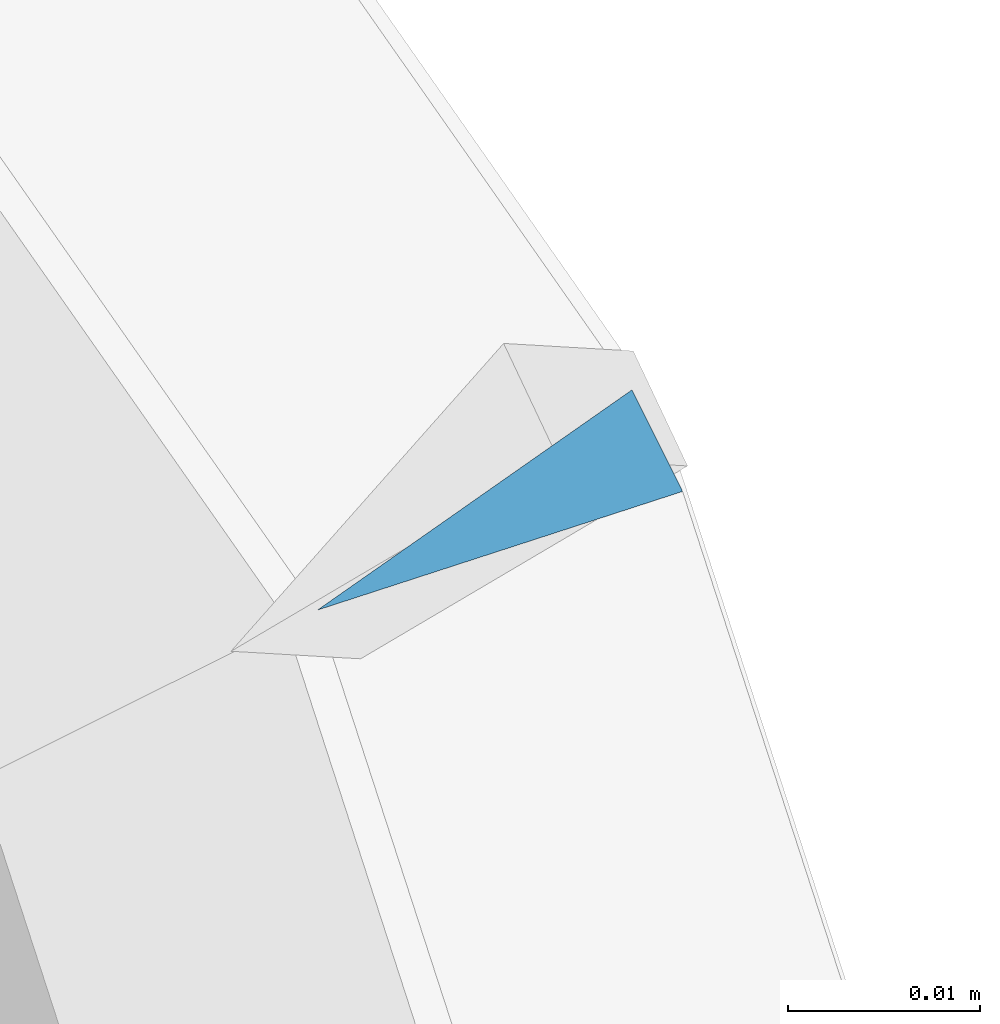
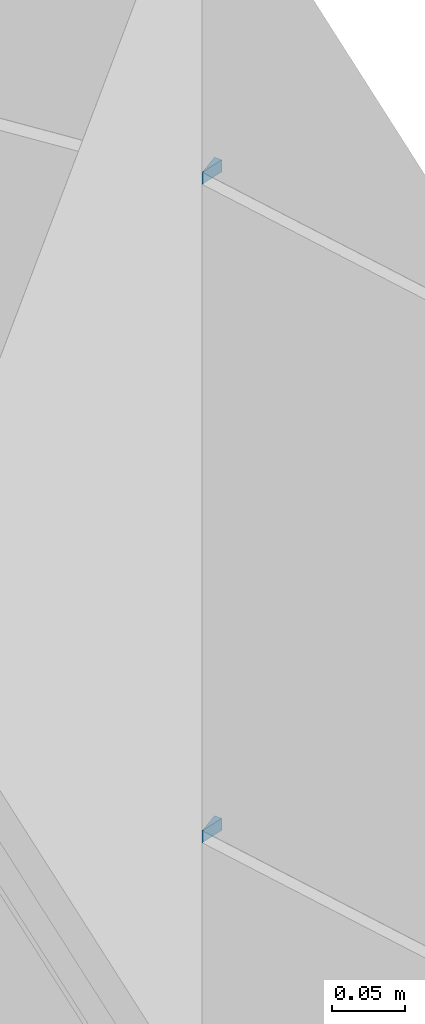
# One storey, part 384 of 583: 2 slabs.
"""IFC2X3 building model written with IfcOpenShell, lengths in metres."""

import ifcopenshell
import ifcopenshell.guid

model = None  # the IFC model being written
_history = None  # IfcOwnerHistory: only IFC2X3 demands one
_inside = {}  # id of a spatial element -> (the spatial element, [elements in it])
_under = {}  # id of a project, library or spatial element -> (it, [spatial elements below it])
_declared = {}  # id of a project -> (the project, [libraries it declares])
_typed = {}  # id of a type object -> (the type object, [elements of that type])
_made_of = {}  # id of a material, layer set ... -> (it, [elements and type objects made of it])


def new_model(schema):
    """Start an empty IFC model of exactly this schema.

    Asked for "IFC4X3", IfcOpenShell would pick the latest addendum, in which some entities
    have other attributes; the version numbers below select the first issue.
    IFC2X3 requires an IfcOwnerHistory on every rooted entity: one is made here for all.
    """
    global model, _history
    if schema == "IFC4X3":
        model = ifcopenshell.file(schema_version=(4, 3, 0, 0))
    else:
        model = ifcopenshell.file(schema=schema)
    _inside.clear()
    _under.clear()
    _declared.clear()
    _typed.clear()
    _made_of.clear()
    _history = None
    if model.schema == "IFC2X3":
        org = make("IfcOrganization", Name="unknown")
        user = make(
            "IfcPersonAndOrganization",
            ThePerson=make("IfcPerson", FamilyName="unknown"),
            TheOrganization=org,
        )
        app = make(
            "IfcApplication",
            ApplicationDeveloper=org,
            Version="unknown",
            ApplicationFullName="unknown",
            ApplicationIdentifier="unknown",
        )
        _history = make(
            "IfcOwnerHistory",
            OwningUser=user,
            OwningApplication=app,
            ChangeAction="ADDED",
            CreationDate=0,
        )
    return model


def make(cls, **values):
    """One entity of the class cls with the attributes given. An attribute that is None is left unset."""
    return model.create_entity(
        cls, **{name: value for name, value in values.items() if value is not None}
    )


def entity(cls, *values):
    """Any entity or typed value of the class cls, its attributes in the order of the schema. None: left unset."""
    e = model.create_entity(cls)
    for i, value in enumerate(values):
        if value is not None:
            e[i] = value
    return e


def rooted(cls, **values):
    """An entity with a GlobalId (a new one), such as an element, a storey or a relation."""
    return make(cls, GlobalId=ifcopenshell.guid.new(), OwnerHistory=_history, **values)


def si_unit(unit_type, name, prefix=None):
    """IfcSIUnit, for example si_unit("LENGTHUNIT", "METRE", prefix="MILLI")."""
    return make("IfcSIUnit", UnitType=unit_type, Prefix=prefix, Name=name)


def converted_unit(unit_type, name, factor, base, dimensions=None, offset=None):
    """IfcConversionBasedUnit, such as the inch: factor (a typed value) times the base unit."""
    return make(
        "IfcConversionBasedUnit"
        if offset is None
        else "IfcConversionBasedUnitWithOffset",
        ConversionOffset=offset,
        Dimensions=None
        if dimensions is None
        else entity("IfcDimensionalExponents", *dimensions),
        UnitType=unit_type,
        Name=name,
        ConversionFactor=make(
            "IfcMeasureWithUnit", ValueComponent=factor, UnitComponent=base
        ),
    )


def derived_unit(unit_type, elements):
    """IfcDerivedUnit: a product of units, each with its exponent."""
    return make(
        "IfcDerivedUnit",
        Elements=[
            make("IfcDerivedUnitElement", Unit=unit, Exponent=power)
            for unit, power in elements
        ],
        UnitType=unit_type,
    )


def money_unit(currency):
    """IfcMonetaryUnit."""
    return make("IfcMonetaryUnit", Currency=currency)


def assignment(units):
    """IfcUnitAssignment: the units of a project."""
    return None if units is None else make("IfcUnitAssignment", Units=units)


def point(xyz):
    """IfcCartesianPoint."""
    return None if xyz is None else make("IfcCartesianPoint", Coordinates=xyz)


def direction(xyz):
    """IfcDirection."""
    return None if xyz is None else make("IfcDirection", DirectionRatios=xyz)


def frame(location, z_axis=None, x_axis=None):
    """IfcAxis2Placement3D, a coordinate frame: its origin and axes. An axis left out is left unset."""
    return make(
        "IfcAxis2Placement3D",
        Location=point(location),
        Axis=direction(z_axis),
        RefDirection=direction(x_axis),
    )


def origin_with_axes():
    """The frame at (0, 0, 0) with the z axis (0, 0, 1) and the x axis (1, 0, 0) written out."""
    return frame((0.0, 0.0, 0.0), z_axis=(0.0, 0.0, 1.0), x_axis=(1.0, 0.0, 0.0))


def place(relative_to, where):
    """IfcLocalPlacement: puts the frame where relative to a parent placement (None: the world)."""
    return make(
        "IfcLocalPlacement", PlacementRelTo=relative_to, RelativePlacement=where
    )


def context(
    kind, dimensions, precision=None, world=None, true_north=None, identifier=None
):
    """IfcGeometricRepresentationContext, for example the 3D "Model" context."""
    return make(
        "IfcGeometricRepresentationContext",
        ContextIdentifier=identifier,
        ContextType=kind,
        CoordinateSpaceDimension=dimensions,
        Precision=precision,
        WorldCoordinateSystem=world,
        TrueNorth=true_north,
    )


def subcontext(parent, identifier, kind, view, scale=None):
    """IfcGeometricRepresentationSubContext, for example "Body" below "Model"."""
    return make(
        "IfcGeometricRepresentationSubContext",
        ContextIdentifier=identifier,
        ContextType=kind,
        ParentContext=parent,
        TargetScale=scale,
        TargetView=view,
    )


def project(units=None, contexts=None):
    """IfcProject with its units and contexts."""
    return rooted(
        "IfcProject",
        Name="project",
        RepresentationContexts=contexts,
        UnitsInContext=assignment(units),
    )


def spatial(cls, under=None, at=None, **own):
    """A site, building, storey or space (cls), placed at a placement, below another one or the project."""
    s = rooted(cls, ObjectPlacement=at, **own)
    if under is not None:
        _under.setdefault(under.id(), (under, []))[1].append(s)
    return s


def faces_of(points, faces, orient=None, outer=None):
    """IfcFace entities. A face is a list of loops; a loop is a list of indices into points, from 0.

    orient and outer hold one flag for each loop. By default every Orientation is true, the
    first loop of a face is its IfcFaceOuterBound and the others are IfcFaceBound.
    """
    made = []
    for i, loops in enumerate(faces):
        bounds = []
        for j, loop in enumerate(loops):
            is_outer = j == 0 if outer is None else outer[i][j]
            bounds.append(
                make(
                    "IfcFaceOuterBound" if is_outer else "IfcFaceBound",
                    Bound=make("IfcPolyLoop", Polygon=[points[k] for k in loop]),
                    Orientation=True if orient is None else orient[i][j],
                )
            )
        made.append(make("IfcFace", Bounds=bounds))
    return made


def faceted_brep(points, faces, orient=None, outer=None, voids=None):
    """IfcFacetedBrep: a solid bounded by flat faces; with voids (closed shells), ...WithVoids."""
    shared = [point(p) for p in points]
    hull = make("IfcClosedShell", CfsFaces=faces_of(shared, faces, orient, outer))
    if voids is None:
        return make("IfcFacetedBrep", Outer=hull)
    return make(
        "IfcFacetedBrepWithVoids",
        Outer=hull,
        Voids=[
            make(cls, CfsFaces=faces_of(shared, fs, o, b)) for cls, fs, o, b in voids
        ],
    )


def shape(context_of_items, identifier, shape_type, items):
    """IfcShapeRepresentation: the items that make up one representation, for example the "Body"."""
    return make(
        "IfcShapeRepresentation",
        ContextOfItems=context_of_items,
        RepresentationIdentifier=identifier,
        RepresentationType=shape_type,
        Items=items,
    )


def material(Name=None, Category=None):
    """IfcMaterial."""
    return make("IfcMaterial", Name=Name, Category=Category)


def made_of(thing, what):
    """Note that an element or type object is made of a material, layer set ...; save() writes the relation."""
    if what is not None:
        _made_of.setdefault(what.id(), (what, []))[1].append(thing)
    return thing


def type_object(cls, material=None, **own):
    """A type object (cls), such as IfcWallType, which elements share."""
    return made_of(rooted(cls, **own), material)


def element(
    cls,
    number,
    at=None,
    inside=None,
    cuts=None,
    type_object=None,
    material=None,
    context=None,
    identifier="Body",
    shape_type=None,
    held_by="IfcProductDefinitionShape",
    body=None,
    shapes=None,
    **own,
):
    """One element of the class cls, such as IfcWall. Its Tag is "e" and its number.

    at: its placement. inside: the storey or other place that contains it. cuts: it is an
    opening in that element (IfcRelVoidsElement). A single representation is given by context,
    identifier, shape_type and body (its items); several are given by shapes. held_by: the class
    of the entity that holds the representations. save() writes the other relations.
    """
    e = rooted(cls, Tag="e%d" % number, ObjectPlacement=at, **own)
    if body is not None:
        shapes = [shape(context, identifier, shape_type, body)]
    if shapes is not None:
        e.Representation = make(held_by, Representations=shapes)
    if inside is not None:
        _inside.setdefault(inside.id(), (inside, []))[1].append(e)
    if cuts is not None:
        rooted(
            "IfcRelVoidsElement", RelatingBuildingElement=cuts, RelatedOpeningElement=e
        )
    if type_object is not None:
        _typed.setdefault(type_object.id(), (type_object, []))[1].append(e)
    return made_of(e, material)


def aggregate(whole, parts):
    """IfcRelAggregates: a whole, such as a stair, and the parts it consists of."""
    return rooted("IfcRelAggregates", RelatingObject=whole, RelatedObjects=parts)


def save(model, path):
    """Write the relations noted so far, then the file.

    IfcRelAggregates (storeys below a building ...), IfcRelContainedInSpatialStructure (elements
    in a storey), IfcRelDefinesByType, IfcRelAssociatesMaterial and IfcRelDeclares: one each for
    every whole, place, type object, material and project.
    """
    for whole, parts in _under.values():
        aggregate(whole, parts)
    for where, things in _inside.values():
        rooted(
            "IfcRelContainedInSpatialStructure",
            RelatedElements=things,
            RelatingStructure=where,
        )
    for kind, things in _typed.values():
        rooted("IfcRelDefinesByType", RelatedObjects=things, RelatingType=kind)
    for what, things in _made_of.values():
        rooted("IfcRelAssociatesMaterial", RelatedObjects=things, RelatingMaterial=what)
    for by, libraries in _declared.values():
        rooted("IfcRelDeclares", RelatingContext=by, RelatedDefinitions=libraries)
    model.write(path)


model = new_model("IFC2X3")

# Units and contexts
model_context = context("Model", 3, precision=1e-05, world=origin_with_axes(), true_north=direction((0.0, 1.0)))
body_context = subcontext(model_context, "Body", "Model", "MODEL_VIEW", scale=1.0)
ifc_project = project(units=[si_unit("LENGTHUNIT", "METRE"), si_unit("AREAUNIT", "SQUARE_METRE"), si_unit("VOLUMEUNIT", "CUBIC_METRE"), si_unit("ABSORBEDDOSEUNIT", "GRAY"), si_unit("AMOUNTOFSUBSTANCEUNIT", "MOLE"), si_unit("DOSEEQUIVALENTUNIT", "SIEVERT"), si_unit("ELECTRICCAPACITANCEUNIT", "FARAD"), si_unit("ELECTRICCHARGEUNIT", "COULOMB"), si_unit("ELECTRICCONDUCTANCEUNIT", "SIEMENS"), si_unit("ELECTRICCURRENTUNIT", "AMPERE"), si_unit("ELECTRICRESISTANCEUNIT", "OHM"), si_unit("ELECTRICVOLTAGEUNIT", "VOLT"), si_unit("ENERGYUNIT", "JOULE"), si_unit("FORCEUNIT", "NEWTON"), si_unit("FREQUENCYUNIT", "HERTZ"), si_unit("ILLUMINANCEUNIT", "LUX"), si_unit("INDUCTANCEUNIT", "HENRY"), si_unit("LUMINOUSFLUXUNIT", "LUMEN"), si_unit("LUMINOUSINTENSITYUNIT", "CANDELA"), si_unit("MAGNETICFLUXDENSITYUNIT", "TESLA"), si_unit("MAGNETICFLUXUNIT", "WEBER"), si_unit("MASSUNIT", "GRAM"), converted_unit("PLANEANGLEUNIT", "degree", entity("IfcReal", 0.0174532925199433), si_unit("PLANEANGLEUNIT", "RADIAN"), dimensions=[0, 0, 0, 0, 0, 0, 0]), si_unit("POWERUNIT", "WATT"), si_unit("PRESSUREUNIT", "PASCAL"), si_unit("RADIOACTIVITYUNIT", "BECQUEREL"), si_unit("SOLIDANGLEUNIT", "STERADIAN"), si_unit("THERMODYNAMICTEMPERATUREUNIT", "KELVIN"), si_unit("TIMEUNIT", "SECOND"), derived_unit("ACCELERATIONUNIT", [(si_unit("LENGTHUNIT", "METRE"), 1), (si_unit("TIMEUNIT", "SECOND"), -2)]), derived_unit("ANGULARVELOCITYUNIT", [(converted_unit("PLANEANGLEUNIT", "degree", entity("IfcReal", 0.0174532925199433), si_unit("PLANEANGLEUNIT", "RADIAN"), dimensions=[0, 0, 0, 0, 0, 0, 0]), 1), (si_unit("TIMEUNIT", "SECOND"), -1)]), derived_unit("CURVATUREUNIT", [(converted_unit("PLANEANGLEUNIT", "degree", entity("IfcReal", 0.0174532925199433), si_unit("PLANEANGLEUNIT", "RADIAN"), dimensions=[0, 0, 0, 0, 0, 0, 0]), 1), (si_unit("LENGTHUNIT", "METRE"), -1)]), derived_unit("DYNAMICVISCOSITYUNIT", [(si_unit("PRESSUREUNIT", "PASCAL"), 1), (si_unit("TIMEUNIT", "SECOND"), 1)]), derived_unit("HEATFLUXDENSITYUNIT", [(si_unit("POWERUNIT", "WATT"), 1), (si_unit("LENGTHUNIT", "METRE"), -2)]), derived_unit("HEATINGVALUEUNIT", [(si_unit("ENERGYUNIT", "JOULE"), 1), (si_unit("MASSUNIT", "GRAM"), -1)]), derived_unit("INTEGERCOUNTRATEUNIT", [(si_unit("TIMEUNIT", "SECOND"), -1)]), derived_unit("IONCONCENTRATIONUNIT", [(si_unit("MASSUNIT", "GRAM"), 1), (si_unit("VOLUMEUNIT", "CUBIC_METRE"), -1)]), derived_unit("ISOTHERMALMOISTURECAPACITYUNIT", [(si_unit("VOLUMEUNIT", "CUBIC_METRE"), 1), (si_unit("MASSUNIT", "GRAM"), -1)]), derived_unit("KINEMATICVISCOSITYUNIT", [(si_unit("AREAUNIT", "SQUARE_METRE"), 1), (si_unit("TIMEUNIT", "SECOND"), -1)]), derived_unit("LINEARFORCEUNIT", [(si_unit("FORCEUNIT", "NEWTON"), 1), (si_unit("LENGTHUNIT", "METRE"), -1)]), derived_unit("LINEARMOMENTUNIT", [(si_unit("FORCEUNIT", "NEWTON"), 1), (si_unit("LENGTHUNIT", "METRE"), -1)]), derived_unit("LINEARSTIFFNESSUNIT", [(si_unit("FORCEUNIT", "NEWTON"), 1), (si_unit("LENGTHUNIT", "METRE"), -1)]), derived_unit("LINEARVELOCITYUNIT", [(si_unit("LENGTHUNIT", "METRE"), 1), (si_unit("TIMEUNIT", "SECOND"), -1)]), derived_unit("LUMINOUSINTENSITYDISTRIBUTIONUNIT", [(si_unit("LUMINOUSINTENSITYUNIT", "CANDELA"), 1), (si_unit("LUMINOUSFLUXUNIT", "LUMEN"), -1)]), derived_unit("MASSDENSITYUNIT", [(si_unit("MASSUNIT", "GRAM"), 1), (si_unit("VOLUMEUNIT", "CUBIC_METRE"), -1)]), derived_unit("MASSFLOWRATEUNIT", [(si_unit("MASSUNIT", "GRAM"), 1), (si_unit("TIMEUNIT", "SECOND"), -1)]), derived_unit("MASSPERLENGTHUNIT", [(si_unit("MASSUNIT", "GRAM"), 1), (si_unit("LENGTHUNIT", "METRE"), -1)]), derived_unit("MODULUSOFELASTICITYUNIT", [(si_unit("FORCEUNIT", "NEWTON"), 1), (si_unit("AREAUNIT", "SQUARE_METRE"), -1)]), derived_unit("MODULUSOFLINEARSUBGRADEREACTIONUNIT", [(si_unit("FORCEUNIT", "NEWTON"), 1), (si_unit("LENGTHUNIT", "METRE"), -2)]), derived_unit("MODULUSOFROTATIONALSUBGRADEREACTIONUNIT", [(si_unit("FORCEUNIT", "NEWTON"), 1), (si_unit("LENGTHUNIT", "METRE"), 1)]), derived_unit("MODULUSOFSUBGRADEREACTIONUNIT", [(si_unit("FORCEUNIT", "NEWTON"), 1), (si_unit("VOLUMEUNIT", "CUBIC_METRE"), -1)]), derived_unit("MOISTUREDIFFUSIVITYUNIT", [(si_unit("VOLUMEUNIT", "CUBIC_METRE"), 1), (si_unit("TIMEUNIT", "SECOND"), -1)]), derived_unit("MOLECULARWEIGHTUNIT", [(si_unit("MASSUNIT", "GRAM"), 1), (si_unit("AMOUNTOFSUBSTANCEUNIT", "MOLE"), -1)]), derived_unit("PLANARFORCEUNIT", [(si_unit("FORCEUNIT", "NEWTON"), 1), (si_unit("LENGTHUNIT", "METRE"), -2)]), derived_unit("ROTATIONALFREQUENCYUNIT", [(si_unit("TIMEUNIT", "SECOND"), -1)]), derived_unit("ROTATIONALMASSUNIT", [(si_unit("MASSUNIT", "GRAM"), 1), (si_unit("LENGTHUNIT", "METRE"), 2)]), derived_unit("ROTATIONALSTIFFNESSUNIT", [(si_unit("FORCEUNIT", "NEWTON"), 1), (si_unit("LENGTHUNIT", "METRE"), 1), (converted_unit("PLANEANGLEUNIT", "degree", entity("IfcReal", 0.0174532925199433), si_unit("PLANEANGLEUNIT", "RADIAN"), dimensions=[0, 0, 0, 0, 0, 0, 0]), -1)]), derived_unit("SECTIONAREAINTEGRALUNIT", [(si_unit("LENGTHUNIT", "METRE"), 5)]), derived_unit("SECTIONMODULUSUNIT", [(si_unit("LENGTHUNIT", "METRE"), 3)]), derived_unit("SHEARMODULUSUNIT", [(si_unit("FORCEUNIT", "NEWTON"), 1), (si_unit("AREAUNIT", "SQUARE_METRE"), -1)]), derived_unit("SOUNDPOWERUNIT", [(si_unit("ENERGYUNIT", "JOULE"), 1), (si_unit("TIMEUNIT", "SECOND"), -1)]), derived_unit("SPECIFICHEATCAPACITYUNIT", [(si_unit("FORCEUNIT", "NEWTON"), 1), (si_unit("MASSUNIT", "GRAM"), -1), (si_unit("THERMODYNAMICTEMPERATUREUNIT", "KELVIN"), -1)]), derived_unit("TEMPERATUREGRADIENTUNIT", [(si_unit("THERMODYNAMICTEMPERATUREUNIT", "KELVIN"), 1), (si_unit("LENGTHUNIT", "METRE"), -1)]), derived_unit("THERMALADMITTANCEUNIT", [(si_unit("POWERUNIT", "WATT"), 1), (si_unit("AREAUNIT", "SQUARE_METRE"), -1), (si_unit("THERMODYNAMICTEMPERATUREUNIT", "KELVIN"), -1)]), derived_unit("THERMALCONDUCTANCEUNIT", [(si_unit("POWERUNIT", "WATT"), 1), (si_unit("LENGTHUNIT", "METRE"), -1), (si_unit("THERMODYNAMICTEMPERATUREUNIT", "KELVIN"), -1)]), derived_unit("THERMALEXPANSIONCOEFFICIENTUNIT", [(si_unit("THERMODYNAMICTEMPERATUREUNIT", "KELVIN"), -1)]), derived_unit("THERMALRESISTANCEUNIT", [(si_unit("AREAUNIT", "SQUARE_METRE"), 1), (si_unit("POWERUNIT", "WATT"), -1)]), derived_unit("THERMALTRANSMITTANCEUNIT", [(si_unit("POWERUNIT", "WATT"), 1), (si_unit("AREAUNIT", "SQUARE_METRE"), -1), (si_unit("THERMODYNAMICTEMPERATUREUNIT", "KELVIN"), -1)]), derived_unit("TORQUEUNIT", [(si_unit("FORCEUNIT", "NEWTON"), 1), (si_unit("LENGTHUNIT", "METRE"), 1)]), derived_unit("VAPORPERMEABILITYUNIT", [(si_unit("MASSUNIT", "GRAM"), 1), (si_unit("TIMEUNIT", "SECOND"), -1)]), derived_unit("VOLUMETRICFLOWRATEUNIT", [(si_unit("VOLUMEUNIT", "CUBIC_METRE"), 1), (si_unit("TIMEUNIT", "SECOND"), -1)]), derived_unit("WARPINGCONSTANTUNIT", [(si_unit("LENGTHUNIT", "METRE"), 6)]), derived_unit("WARPINGMOMENTUNIT", [(si_unit("FORCEUNIT", "NEWTON"), 1), (si_unit("LENGTHUNIT", "METRE"), 2)]), money_unit("GBP")], contexts=[model_context])

# Site, building, storey
site_placement = place(None, origin_with_axes())
site = spatial("IfcSite", under=ifc_project, at=site_placement, Name="Site", CompositionType="ELEMENT")
building_placement = place(site_placement, origin_with_axes())
building = spatial("IfcBuilding", under=site, at=building_placement, Name="Building01", CompositionType="ELEMENT")
storey_placement = place(building_placement, frame((0.0, 0.0, 20.78), z_axis=(0.0, 0.0, 1.0), x_axis=(1.0, 0.0, 0.0)))
storey = spatial("IfcBuildingStorey", under=building, at=storey_placement, Name="RL", CompositionType="ELEMENT", Elevation=20.78)

# Slabs
ifc_material = material(Name="A_BSUK_Roofs")
slab_type = type_object("IfcSlabType", Name="A-FloorsSlabs A_BSUK_Slabs", PredefinedType="FLOOR")
for number, where, z_axis, x_axis, name in (
    (1, (13.582123, 18.791933, -16.034976), (0.0, 1.0, 0.0), (0.0, 0.0, -1.0), "A-FloorsSlabs A_BSUK_Slabs"),
    (2, (13.582123, 18.791933, -16.582476), (0.0, 1.0, 0.0), (0.0, 0.0, -1.0), "A-FloorsSlabs A_BSUK_Slabs"),
):
    element("IfcSlab", number, at=place(storey_placement, frame(where, z_axis=z_axis, x_axis=x_axis)), inside=storey, type_object=slab_type, material=ifc_material, Name=name, ObjectType="A-FloorsSlabs A_BSUK_Slabs", context=body_context, shape_type="Brep", body=[
        faceted_brep([(0.0, -0.002638, -0.005291), (0.01, -0.002638, -0.005291), (0.01, 0.0, 0.0), (0.0, 0.0, 0.0), (0.0, 0.016383, -0.011472), (0.01, 0.016383, -0.011472)], [[[0, 1, 2, 3]], [[4, 5, 1, 0]], [[3, 2, 5, 4]], [[1, 5, 2]], [[3, 4, 0]]]),
    ])

save(model, "model.ifc")
